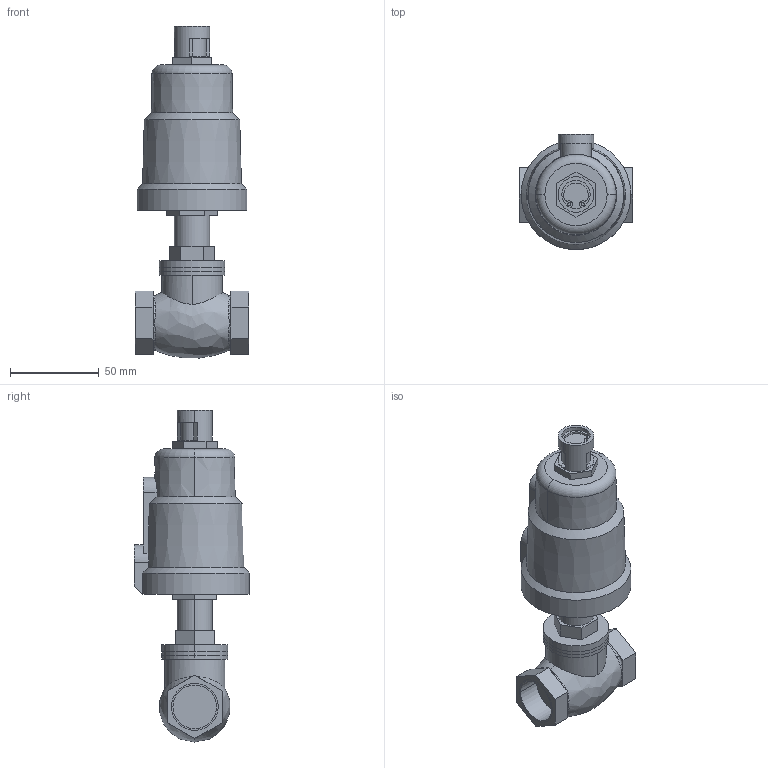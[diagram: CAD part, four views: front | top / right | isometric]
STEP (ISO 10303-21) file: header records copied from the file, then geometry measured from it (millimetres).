
FILE_DESCRIPTION((''),'2;1');
FILE_NAME('SB_KLAPAN_ASM','2024-06-08T',('AMD'),(''),'PRO/ENGINEER BY PARAMETRIC TECHNOLOGY CORPORATION, 2008020','PRO/ENGINEER BY PARAMETRIC TECHNOLOGY CORPORATION, 2008020','');
FILE_SCHEMA(('CONFIG_CONTROL_DESIGN'));
Length unit declared in the file: millimetre
Products named in the file (5): KLAPAN; UPLOTNENIE; KOLCO_16_GOST13943; KOLCO_52_GOST13943; SB_KLAPAN_ASM
Assembly tree (4 placements, depth 2):
  SB_KLAPAN_ASM
    KLAPAN
    UPLOTNENIE
    KOLCO_16_GOST13943
    KOLCO_52_GOST13943
Bounding box: 64 x 64.89 x 187.32 mm (x, y, z)
Volume: 263743.8 mm3; surface area: 44083.9 mm2
Topology: 4 solids, 8 shells, 189 faces, 464 edges, 300 vertices
Faces by surface type: plane 87, cylinder 69, torus 14, bspline 14, cone 5
Entity records: 6717 total; most frequent: CARTESIAN_POINT 2046, DIRECTION 1004, ORIENTED_EDGE 912, EDGE_CURVE 464, AXIS2_PLACEMENT_3D 395, VERTEX_POINT 300, EDGE_LOOP 216, VECTOR 214
